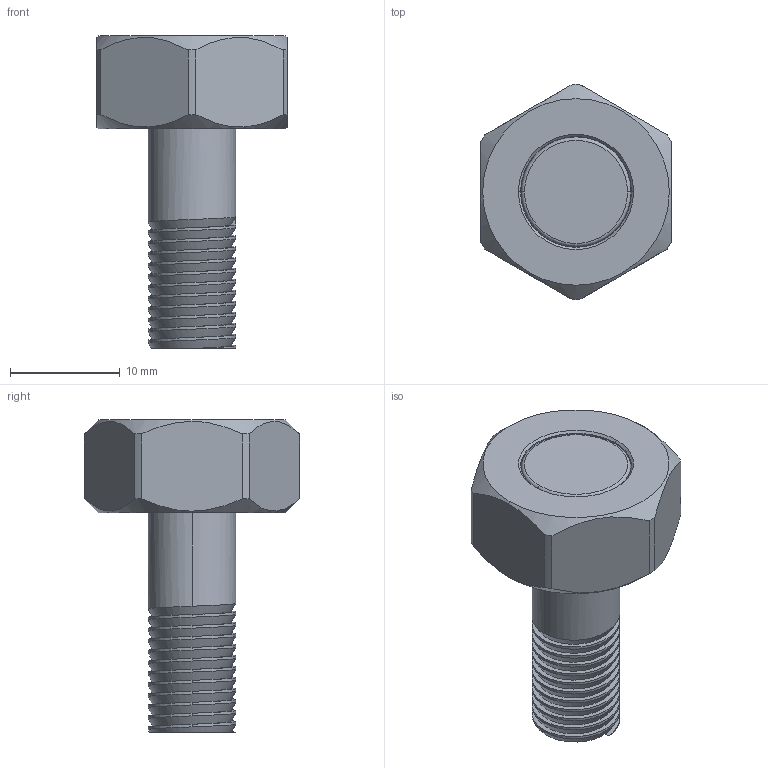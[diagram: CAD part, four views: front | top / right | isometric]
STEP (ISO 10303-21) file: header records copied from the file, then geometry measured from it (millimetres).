
FILE_DESCRIPTION (( 'STEP AP203' ), '1' );
FILE_NAME ('90.5000.STEP', '2024-12-16T08:05:03', ( '' ), ( '' ), 'SwSTEP 2.0', 'SolidWorks 2023', '' );
FILE_SCHEMA (( 'CONFIG_CONTROL_DESIGN' ));
Length unit declared in the file: millimetre
Products named in the file (1): 90.5000
Bounding box: 17.32 x 19.6 x 28.5 mm (x, y, z)
Volume: 3118.1 mm3; surface area: 2078.4 mm2
Topology: 2 solids, 2 shells, 60 faces, 153 edges, 99 vertices
Faces by surface type: cylinder 35, plane 13, cone 6, torus 4, bspline 2
Entity records: 3242 total; most frequent: CARTESIAN_POINT 1867, ORIENTED_EDGE 306, DIRECTION 242, EDGE_CURVE 153, VERTEX_POINT 99, AXIS2_PLACEMENT_3D 96, EDGE_LOOP 62, ADVANCED_FACE 60
